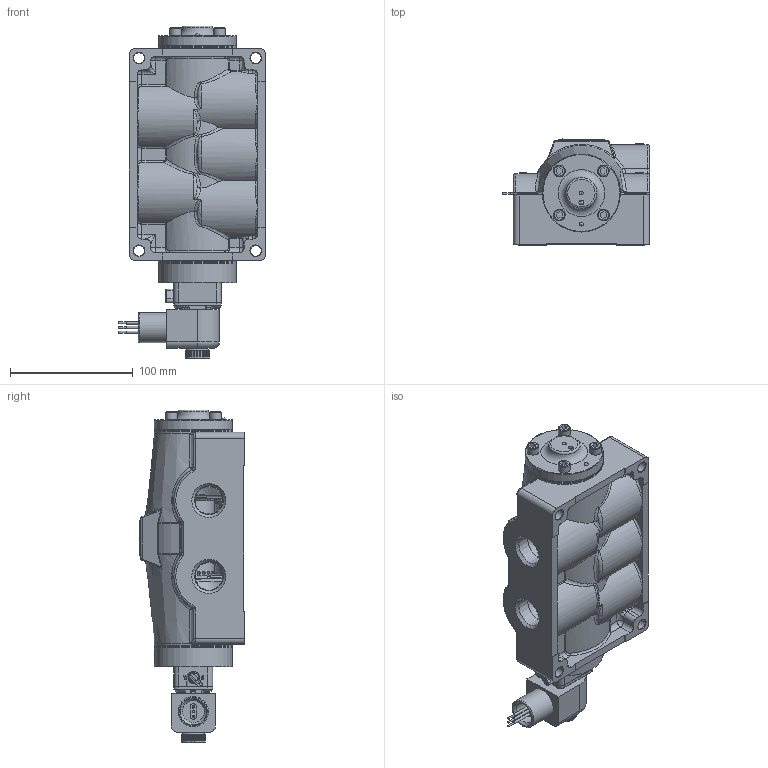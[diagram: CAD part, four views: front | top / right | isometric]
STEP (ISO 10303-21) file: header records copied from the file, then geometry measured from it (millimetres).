
FILE_DESCRIPTION(/* description */ (''),/* implementation_level */ '2;1');
FILE_NAME(/* name */ 'D:\Website Files\stp\Valves\Standard\ESO\ESO6XOL.stp',/* time_stamp */ '2018-02-18T09:27:40-05:00',/* author */ ('RMcKenna'),/* organization */ (''),/* preprocessor_version */ 'ST-DEVELOPER v17',/* originating_system */ 'Autodesk Inventor 2018',/* authorisation */ '');
FILE_SCHEMA (('AUTOMOTIVE_DESIGN { 1 0 10303 214 3 1 1 }'));
Products named in the file (1): Part6
Bounding box: 119.93 x 86.28 x 270.76 mm (x, y, z)
Volume: 1096824.6 mm3; surface area: 220603.6 mm2
Topology: 3 solids, 33 shells, 2638 faces, 6519 edges, 4054 vertices
Faces by surface type: plane 996, cylinder 697, bspline 334, cone 311, torus 211, sphere 89
Full cylindrical faces by diameter (mm): 1.3 x1, 1.397 x1, 1.5 x1, 1.524 x3, 2.032 x11, 2.07 x2, 2.261 x2, 2.35 x4, 2.388 x1, 2.5 x1, 2.778 x2, 2.8 x1, 3 x4, 3.048 x3, 3.175 x3, 3.4 x1, 3.683 x5, 3.962 x2, 3.969 x1, 4.191 x2, 4.826 x4, 4.978 x8, 5.15 x4, 5.156 x4, 5.5 x1, 6.35 x8, 6.65 x1, 6.747 x4, 7.137 x4, 7.144 x8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
Entity records: 108228 total; most frequent: CARTESIAN_POINT 44851, ORIENTED_EDGE 12884, DIRECTION 12272, EDGE_CURVE 6442, AXIS2_PLACEMENT_3D 4764, VERTEX_POINT 4054, EDGE_LOOP 2892, LINE 2744
